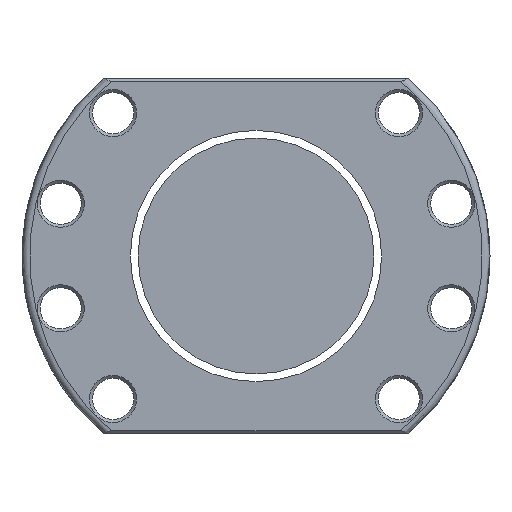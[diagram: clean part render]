
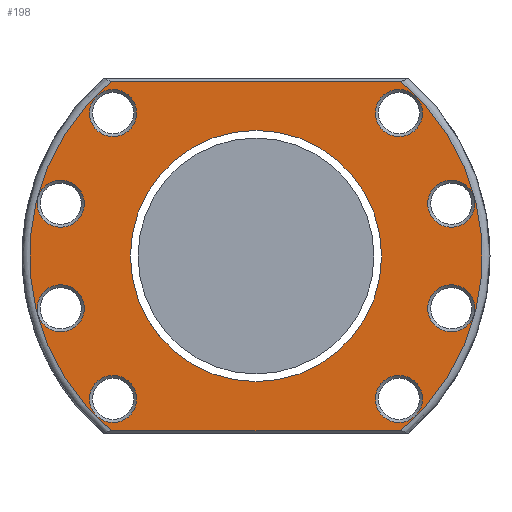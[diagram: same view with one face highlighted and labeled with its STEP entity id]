
A CAD part, left-side view. The second image highlights one B-rep face of the part: STEP entity #198.
In plain terms, the highlighted planar face has unit normal (-1, 0, 0).
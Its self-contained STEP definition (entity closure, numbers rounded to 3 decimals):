
#8 = CARTESIAN_POINT ( 'NONE',  ( -93., 38.184, -38.184 ) ) ;
#66 = EDGE_CURVE ( 'NONE', #1695, #1695, #2892, .T. ) ;
#93 = EDGE_LOOP ( 'NONE', ( #948 ) ) ;
#94 = EDGE_LOOP ( 'NONE', ( #2139 ) ) ;
#100 = ORIENTED_EDGE ( 'NONE', *, *, #66, .T. ) ;
#105 = EDGE_LOOP ( 'NONE', ( #3251 ) ) ;
#109 = CARTESIAN_POINT ( 'NONE',  ( -93., 31.884, 38.184 ) ) ;
#198 = ADVANCED_FACE ( 'NONE', ( #3229, #3211, #2902, #1602, #2635, #1131, #2388, #1093, #579, #852 ), #2667, .T. ) ;
#205 = ORIENTED_EDGE ( 'NONE', *, *, #492, .T. ) ;
#262 = CARTESIAN_POINT ( 'NONE',  ( -93., 0., 0. ) ) ;
#309 = DIRECTION ( 'NONE',  ( 0., 1., 0. ) ) ;
#400 = VERTEX_POINT ( 'NONE', #2208 ) ;
#408 = AXIS2_PLACEMENT_3D ( 'NONE', #1625, #2639, #309 ) ;
#413 = AXIS2_PLACEMENT_3D ( 'NONE', #2512, #2258, #1932 ) ;
#418 = CARTESIAN_POINT ( 'NONE',  ( -93., 31.884, -38.184 ) ) ;
#462 = ORIENTED_EDGE ( 'NONE', *, *, #1659, .T. ) ;
#467 = EDGE_CURVE ( 'NONE', #2676, #2676, #2037, .T. ) ;
#492 = EDGE_CURVE ( 'NONE', #3239, #3239, #2628, .T. ) ;
#571 = CIRCLE ( 'NONE', #2370, 6.3 ) ;
#579 = FACE_OUTER_BOUND ( 'NONE', #2560, .T. ) ;
#596 = DIRECTION ( 'NONE',  ( 0., -1., 0. ) ) ;
#624 = AXIS2_PLACEMENT_3D ( 'NONE', #1620, #1891, #596 ) ;
#657 = CARTESIAN_POINT ( 'NONE',  ( -93., 52.16, -13.976 ) ) ;
#685 = CIRCLE ( 'NONE', #413, 6.3 ) ;
#814 = CARTESIAN_POINT ( 'NONE',  ( -93., -38.184, 38.184 ) ) ;
#852 = FACE_BOUND ( 'NONE', #1207, .T. ) ;
#884 = CARTESIAN_POINT ( 'NONE',  ( -93., -38.184, -38.184 ) ) ;
#896 = VERTEX_POINT ( 'NONE', #2983 ) ;
#898 = CIRCLE ( 'NONE', #1330, 6.3 ) ;
#936 = DIRECTION ( 'NONE',  ( 0., -1., 0. ) ) ;
#948 = ORIENTED_EDGE ( 'NONE', *, *, #2361, .T. ) ;
#990 = ORIENTED_EDGE ( 'NONE', *, *, #1268, .T. ) ;
#997 = CARTESIAN_POINT ( 'NONE',  ( -93., -40.62, -46.7 ) ) ;
#1015 = DIRECTION ( 'NONE',  ( 0., -1., 0. ) ) ;
#1069 = CIRCLE ( 'NONE', #408, 33.55 ) ;
#1093 = FACE_BOUND ( 'NONE', #93, .T. ) ;
#1131 = FACE_BOUND ( 'NONE', #2114, .T. ) ;
#1153 = VERTEX_POINT ( 'NONE', #2631 ) ;
#1207 = EDGE_LOOP ( 'NONE', ( #462 ) ) ;
#1223 = EDGE_CURVE ( 'NONE', #3204, #3204, #898, .T. ) ;
#1261 = DIRECTION ( 'NONE',  ( 1., 0., 0. ) ) ;
#1268 = EDGE_CURVE ( 'NONE', #2925, #3145, #1632, .T. ) ;
#1281 = AXIS2_PLACEMENT_3D ( 'NONE', #814, #2645, #3141 ) ;
#1288 = AXIS2_PLACEMENT_3D ( 'NONE', #262, #1353, #1876 ) ;
#1330 = AXIS2_PLACEMENT_3D ( 'NONE', #657, #1954, #3154 ) ;
#1335 = VECTOR ( 'NONE', #2984, 1000. ) ;
#1353 = DIRECTION ( 'NONE',  ( -1., 0., 0. ) ) ;
#1373 = CARTESIAN_POINT ( 'NONE',  ( -93., 45.86, -13.976 ) ) ;
#1380 = CARTESIAN_POINT ( 'NONE',  ( -93., -52.16, 13.976 ) ) ;
#1396 = AXIS2_PLACEMENT_3D ( 'NONE', #2301, #2231, #936 ) ;
#1440 = AXIS2_PLACEMENT_3D ( 'NONE', #1380, #2421, #2199 ) ;
#1447 = CIRCLE ( 'NONE', #1288, 60.5 ) ;
#1451 = CIRCLE ( 'NONE', #3345, 6.3 ) ;
#1480 = DIRECTION ( 'NONE',  ( 0., -1., 0. ) ) ;
#1522 = ORIENTED_EDGE ( 'NONE', *, *, #1678, .T. ) ;
#1602 = FACE_BOUND ( 'NONE', #2763, .T. ) ;
#1606 = VECTOR ( 'NONE', #1015, 1000. ) ;
#1612 = VERTEX_POINT ( 'NONE', #1845 ) ;
#1620 = CARTESIAN_POINT ( 'NONE',  ( -93., 62.5, 0. ) ) ;
#1624 = ORIENTED_EDGE ( 'NONE', *, *, #2768, .T. ) ;
#1625 = CARTESIAN_POINT ( 'NONE',  ( -93., 0., 0. ) ) ;
#1632 = LINE ( 'NONE', #2229, #1335 ) ;
#1645 = CARTESIAN_POINT ( 'NONE',  ( -93., -44.484, 38.184 ) ) ;
#1659 = EDGE_CURVE ( 'NONE', #400, #400, #1069, .T. ) ;
#1667 = CIRCLE ( 'NONE', #1396, 6.3 ) ;
#1678 = EDGE_CURVE ( 'NONE', #1612, #2925, #1447, .T. ) ;
#1695 = VERTEX_POINT ( 'NONE', #2191 ) ;
#1712 = CARTESIAN_POINT ( 'NONE',  ( -93., 45.86, 13.976 ) ) ;
#1745 = LINE ( 'NONE', #997, #1606 ) ;
#1829 = CIRCLE ( 'NONE', #2799, 60.5 ) ;
#1845 = CARTESIAN_POINT ( 'NONE',  ( -93., -38.462, -46.7 ) ) ;
#1859 = EDGE_CURVE ( 'NONE', #1153, #1612, #1745, .T. ) ;
#1876 = DIRECTION ( 'NONE',  ( 0., -1., 0. ) ) ;
#1891 = DIRECTION ( 'NONE',  ( -1., 0., 0. ) ) ;
#1932 = DIRECTION ( 'NONE',  ( 0., -1., 0. ) ) ;
#1954 = DIRECTION ( 'NONE',  ( 1., 0., 0. ) ) ;
#2006 = CARTESIAN_POINT ( 'NONE',  ( -93., 0., 0. ) ) ;
#2019 = CARTESIAN_POINT ( 'NONE',  ( -93., 38.184, 38.184 ) ) ;
#2022 = DIRECTION ( 'NONE',  ( -1., 0., 0. ) ) ;
#2037 = CIRCLE ( 'NONE', #1281, 6.3 ) ;
#2039 = DIRECTION ( 'NONE',  ( 0., -1., 0. ) ) ;
#2090 = DIRECTION ( 'NONE',  ( 0., -1., 0. ) ) ;
#2114 = EDGE_LOOP ( 'NONE', ( #3011 ) ) ;
#2139 = ORIENTED_EDGE ( 'NONE', *, *, #2222, .T. ) ;
#2163 = DIRECTION ( 'NONE',  ( 1., 0., 0. ) ) ;
#2187 = EDGE_LOOP ( 'NONE', ( #3188 ) ) ;
#2191 = CARTESIAN_POINT ( 'NONE',  ( -93., -58.46, 13.976 ) ) ;
#2199 = DIRECTION ( 'NONE',  ( 0., -1., 0. ) ) ;
#2208 = CARTESIAN_POINT ( 'NONE',  ( -93., 33.55, 0. ) ) ;
#2222 = EDGE_CURVE ( 'NONE', #2449, #2449, #571, .T. ) ;
#2229 = CARTESIAN_POINT ( 'NONE',  ( -93., 40.62, 46.7 ) ) ;
#2231 = DIRECTION ( 'NONE',  ( 1., 0., 0. ) ) ;
#2258 = DIRECTION ( 'NONE',  ( 1., 0., 0. ) ) ;
#2301 = CARTESIAN_POINT ( 'NONE',  ( -93., 52.16, 13.976 ) ) ;
#2361 = EDGE_CURVE ( 'NONE', #896, #896, #685, .T. ) ;
#2370 = AXIS2_PLACEMENT_3D ( 'NONE', #2019, #1261, #2039 ) ;
#2388 = FACE_BOUND ( 'NONE', #3319, .T. ) ;
#2421 = DIRECTION ( 'NONE',  ( 1., 0., 0. ) ) ;
#2425 = DIRECTION ( 'NONE',  ( 1., 0., 0. ) ) ;
#2449 = VERTEX_POINT ( 'NONE', #109 ) ;
#2452 = DIRECTION ( 'NONE',  ( 0., -1., 0. ) ) ;
#2464 = CARTESIAN_POINT ( 'NONE',  ( -93., -44.484, -38.184 ) ) ;
#2494 = EDGE_LOOP ( 'NONE', ( #100 ) ) ;
#2512 = CARTESIAN_POINT ( 'NONE',  ( -93., -52.16, -13.976 ) ) ;
#2517 = CARTESIAN_POINT ( 'NONE',  ( -93., -38.462, 46.7 ) ) ;
#2527 = AXIS2_PLACEMENT_3D ( 'NONE', #884, #2163, #2452 ) ;
#2560 = EDGE_LOOP ( 'NONE', ( #2837, #1522, #990, #3245 ) ) ;
#2600 = CARTESIAN_POINT ( 'NONE',  ( -93., 38.462, 46.7 ) ) ;
#2628 = CIRCLE ( 'NONE', #2527, 6.3 ) ;
#2631 = CARTESIAN_POINT ( 'NONE',  ( -93., 38.462, -46.7 ) ) ;
#2635 = FACE_BOUND ( 'NONE', #2187, .T. ) ;
#2639 = DIRECTION ( 'NONE',  ( 1., 0., 0. ) ) ;
#2645 = DIRECTION ( 'NONE',  ( 1., 0., 0. ) ) ;
#2667 = PLANE ( 'NONE',  #624 ) ;
#2676 = VERTEX_POINT ( 'NONE', #1645 ) ;
#2763 = EDGE_LOOP ( 'NONE', ( #1624 ) ) ;
#2768 = EDGE_CURVE ( 'NONE', #3285, #3285, #1667, .T. ) ;
#2790 = VERTEX_POINT ( 'NONE', #418 ) ;
#2799 = AXIS2_PLACEMENT_3D ( 'NONE', #2006, #2022, #1480 ) ;
#2832 = EDGE_CURVE ( 'NONE', #3145, #1153, #1829, .T. ) ;
#2837 = ORIENTED_EDGE ( 'NONE', *, *, #1859, .T. ) ;
#2892 = CIRCLE ( 'NONE', #1440, 6.3 ) ;
#2902 = FACE_BOUND ( 'NONE', #94, .T. ) ;
#2925 = VERTEX_POINT ( 'NONE', #2517 ) ;
#2983 = CARTESIAN_POINT ( 'NONE',  ( -93., -58.46, -13.976 ) ) ;
#2984 = DIRECTION ( 'NONE',  ( 0., 1., 0. ) ) ;
#3011 = ORIENTED_EDGE ( 'NONE', *, *, #3227, .T. ) ;
#3141 = DIRECTION ( 'NONE',  ( 0., -1., 0. ) ) ;
#3145 = VERTEX_POINT ( 'NONE', #2600 ) ;
#3154 = DIRECTION ( 'NONE',  ( 0., -1., 0. ) ) ;
#3188 = ORIENTED_EDGE ( 'NONE', *, *, #1223, .T. ) ;
#3204 = VERTEX_POINT ( 'NONE', #1373 ) ;
#3211 = FACE_BOUND ( 'NONE', #105, .T. ) ;
#3227 = EDGE_CURVE ( 'NONE', #2790, #2790, #1451, .T. ) ;
#3229 = FACE_BOUND ( 'NONE', #2494, .T. ) ;
#3239 = VERTEX_POINT ( 'NONE', #2464 ) ;
#3245 = ORIENTED_EDGE ( 'NONE', *, *, #2832, .T. ) ;
#3251 = ORIENTED_EDGE ( 'NONE', *, *, #467, .T. ) ;
#3285 = VERTEX_POINT ( 'NONE', #1712 ) ;
#3319 = EDGE_LOOP ( 'NONE', ( #205 ) ) ;
#3345 = AXIS2_PLACEMENT_3D ( 'NONE', #8, #2425, #2090 ) ;
